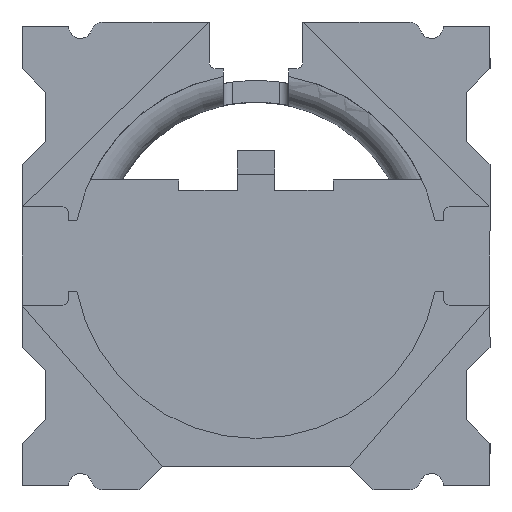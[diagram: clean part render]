
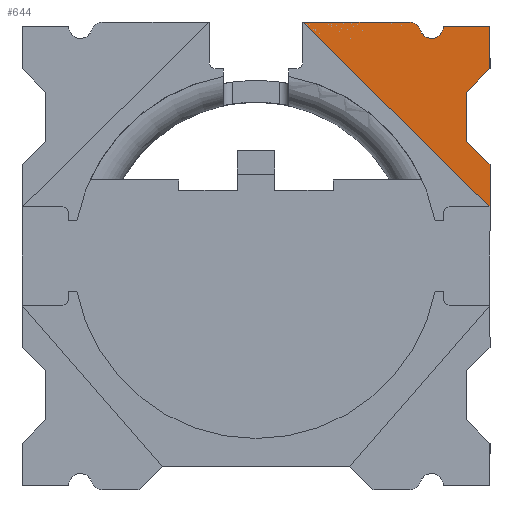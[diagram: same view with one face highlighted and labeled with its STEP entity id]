
A CAD part, front view. The second image highlights one B-rep face of the part: STEP entity #644.
In plain terms, the highlighted planar face has unit normal (0, -1, 0).
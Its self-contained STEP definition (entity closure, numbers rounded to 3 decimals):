
#18 = ORIENTED_EDGE ( 'NONE', *, *, #2462, .T. ) ;
#51 = VERTEX_POINT ( 'NONE', #3116 ) ;
#74 = VERTEX_POINT ( 'NONE', #4446 ) ;
#123 = EDGE_CURVE ( 'NONE', #2538, #1540, #4094, .T. ) ;
#210 = VERTEX_POINT ( 'NONE', #3072 ) ;
#221 = CARTESIAN_POINT ( 'NONE',  ( 0.209, 0., 0.991 ) ) ;
#229 = CARTESIAN_POINT ( 'NONE',  ( 1., 0., 0.8 ) ) ;
#287 = AXIS2_PLACEMENT_3D ( 'NONE', #516, #4004, #2557 ) ;
#374 = LINE ( 'NONE', #714, #3560 ) ;
#386 = ORIENTED_EDGE ( 'NONE', *, *, #1569, .T. ) ;
#435 = VECTOR ( 'NONE', #2955, 1000. ) ;
#467 = EDGE_CURVE ( 'NONE', #3281, #210, #1671, .T. ) ;
#472 = DIRECTION ( 'NONE',  ( 0., 0., -1. ) ) ;
#516 = CARTESIAN_POINT ( 'NONE',  ( 0.75, 0., 0.98 ) ) ;
#644 = ADVANCED_FACE ( 'NONE', ( #3356 ), #3852, .F. ) ;
#704 = CARTESIAN_POINT ( 'NONE',  ( 0., 0., 0.78 ) ) ;
#714 = CARTESIAN_POINT ( 'NONE',  ( 1., 0., 1. ) ) ;
#739 = ORIENTED_EDGE ( 'NONE', *, *, #3577, .T. ) ;
#798 = AXIS2_PLACEMENT_3D ( 'NONE', #1306, #4017, #1247 ) ;
#855 = VECTOR ( 'NONE', #472, 1000. ) ;
#936 = VERTEX_POINT ( 'NONE', #3222 ) ;
#1053 = LINE ( 'NONE', #3754, #2142 ) ;
#1112 = VECTOR ( 'NONE', #4923, 1000. ) ;
#1247 = DIRECTION ( 'NONE',  ( 0., 0., 1. ) ) ;
#1249 = ORIENTED_EDGE ( 'NONE', *, *, #2888, .F. ) ;
#1306 = CARTESIAN_POINT ( 'NONE',  ( 0.75, 0., 0.98 ) ) ;
#1392 = VECTOR ( 'NONE', #3244, 1000. ) ;
#1411 = CARTESIAN_POINT ( 'NONE',  ( 0.9, 0., 0.7 ) ) ;
#1506 = DIRECTION ( 'NONE',  ( 0., 1., 0. ) ) ;
#1511 = LINE ( 'NONE', #2020, #1392 ) ;
#1540 = VERTEX_POINT ( 'NONE', #1798 ) ;
#1544 = EDGE_CURVE ( 'NONE', #4233, #3789, #3023, .T. ) ;
#1569 = EDGE_CURVE ( 'NONE', #936, #2072, #3345, .T. ) ;
#1616 = ORIENTED_EDGE ( 'NONE', *, *, #2560, .T. ) ;
#1630 = EDGE_CURVE ( 'NONE', #51, #2616, #1053, .T. ) ;
#1671 = CIRCLE ( 'NONE', #287, 0.05 ) ;
#1749 = VECTOR ( 'NONE', #5009, 1000. ) ;
#1798 = CARTESIAN_POINT ( 'NONE',  ( 0.702, 0., 0.965 ) ) ;
#1821 = DIRECTION ( 'NONE',  ( 0., 0., 1. ) ) ;
#1852 = ORIENTED_EDGE ( 'NONE', *, *, #123, .F. ) ;
#1959 = CARTESIAN_POINT ( 'NONE',  ( 1., 0., 0.21 ) ) ;
#2004 = LINE ( 'NONE', #2676, #2191 ) ;
#2020 = CARTESIAN_POINT ( 'NONE',  ( 1., 0., 0. ) ) ;
#2059 = LINE ( 'NONE', #2403, #855 ) ;
#2072 = VERTEX_POINT ( 'NONE', #1959 ) ;
#2094 = AXIS2_PLACEMENT_3D ( 'NONE', #3804, #2628, #1821 ) ;
#2142 = VECTOR ( 'NONE', #4992, 1000. ) ;
#2181 = CARTESIAN_POINT ( 'NONE',  ( 1., 0., 0.39 ) ) ;
#2191 = VECTOR ( 'NONE', #3112, 1000. ) ;
#2272 = CARTESIAN_POINT ( 'NONE',  ( 1., 0., 0.98 ) ) ;
#2403 = CARTESIAN_POINT ( 'NONE',  ( 0.9, 0., 0.49 ) ) ;
#2462 = EDGE_CURVE ( 'NONE', #4233, #74, #2004, .T. ) ;
#2538 = VERTEX_POINT ( 'NONE', #5037 ) ;
#2557 = DIRECTION ( 'NONE',  ( 0., 0., 1. ) ) ;
#2560 = EDGE_CURVE ( 'NONE', #2538, #936, #374, .T. ) ;
#2616 = VERTEX_POINT ( 'NONE', #2181 ) ;
#2628 = DIRECTION ( 'NONE',  ( 0., 1., 0. ) ) ;
#2676 = CARTESIAN_POINT ( 'NONE',  ( 1., 0., 0. ) ) ;
#2804 = EDGE_LOOP ( 'NONE', ( #1616, #386, #739, #3870, #3949, #4457, #18, #3349, #4347, #1249, #1852 ) ) ;
#2888 = EDGE_CURVE ( 'NONE', #1540, #3281, #3387, .T. ) ;
#2955 = DIRECTION ( 'NONE',  ( 0.712, 0., -0.703 ) ) ;
#3023 = LINE ( 'NONE', #1411, #1112 ) ;
#3036 = AXIS2_PLACEMENT_3D ( 'NONE', #704, #1506, #4248 ) ;
#3072 = CARTESIAN_POINT ( 'NONE',  ( 0.8, 0., 0.98 ) ) ;
#3112 = DIRECTION ( 'NONE',  ( 0., 0., 1. ) ) ;
#3116 = CARTESIAN_POINT ( 'NONE',  ( 0.9, 0., 0.49 ) ) ;
#3149 = EDGE_CURVE ( 'NONE', #3789, #51, #2059, .T. ) ;
#3222 = CARTESIAN_POINT ( 'NONE',  ( 0.2, 0., 1. ) ) ;
#3244 = DIRECTION ( 'NONE',  ( 0., 0., 1. ) ) ;
#3281 = VERTEX_POINT ( 'NONE', #4732 ) ;
#3345 = LINE ( 'NONE', #221, #435 ) ;
#3349 = ORIENTED_EDGE ( 'NONE', *, *, #3501, .F. ) ;
#3356 = FACE_OUTER_BOUND ( 'NONE', #2804, .T. ) ;
#3387 = CIRCLE ( 'NONE', #798, 0.05 ) ;
#3501 = EDGE_CURVE ( 'NONE', #210, #74, #3815, .T. ) ;
#3560 = VECTOR ( 'NONE', #4218, 1000. ) ;
#3577 = EDGE_CURVE ( 'NONE', #2072, #2616, #1511, .T. ) ;
#3754 = CARTESIAN_POINT ( 'NONE',  ( 1., 0., 0.39 ) ) ;
#3789 = VERTEX_POINT ( 'NONE', #4186 ) ;
#3804 = CARTESIAN_POINT ( 'NONE',  ( 0.655, 0., 0.95 ) ) ;
#3815 = LINE ( 'NONE', #2272, #1749 ) ;
#3852 = PLANE ( 'NONE',  #3036 ) ;
#3870 = ORIENTED_EDGE ( 'NONE', *, *, #1630, .F. ) ;
#3949 = ORIENTED_EDGE ( 'NONE', *, *, #3149, .F. ) ;
#4004 = DIRECTION ( 'NONE',  ( 0., -1., 0. ) ) ;
#4017 = DIRECTION ( 'NONE',  ( 0., -1., 0. ) ) ;
#4094 = CIRCLE ( 'NONE', #2094, 0.05 ) ;
#4186 = CARTESIAN_POINT ( 'NONE',  ( 0.9, 0., 0.7 ) ) ;
#4218 = DIRECTION ( 'NONE',  ( -1., 0., 0. ) ) ;
#4233 = VERTEX_POINT ( 'NONE', #229 ) ;
#4248 = DIRECTION ( 'NONE',  ( 1., 0., 0. ) ) ;
#4347 = ORIENTED_EDGE ( 'NONE', *, *, #467, .F. ) ;
#4446 = CARTESIAN_POINT ( 'NONE',  ( 1., 0., 0.98 ) ) ;
#4457 = ORIENTED_EDGE ( 'NONE', *, *, #1544, .F. ) ;
#4732 = CARTESIAN_POINT ( 'NONE',  ( 0.75, 0., 0.93 ) ) ;
#4923 = DIRECTION ( 'NONE',  ( -0.707, 0., -0.707 ) ) ;
#4992 = DIRECTION ( 'NONE',  ( 0.707, 0., -0.707 ) ) ;
#5009 = DIRECTION ( 'NONE',  ( 1., 0., 0. ) ) ;
#5037 = CARTESIAN_POINT ( 'NONE',  ( 0.655, 0., 1. ) ) ;
